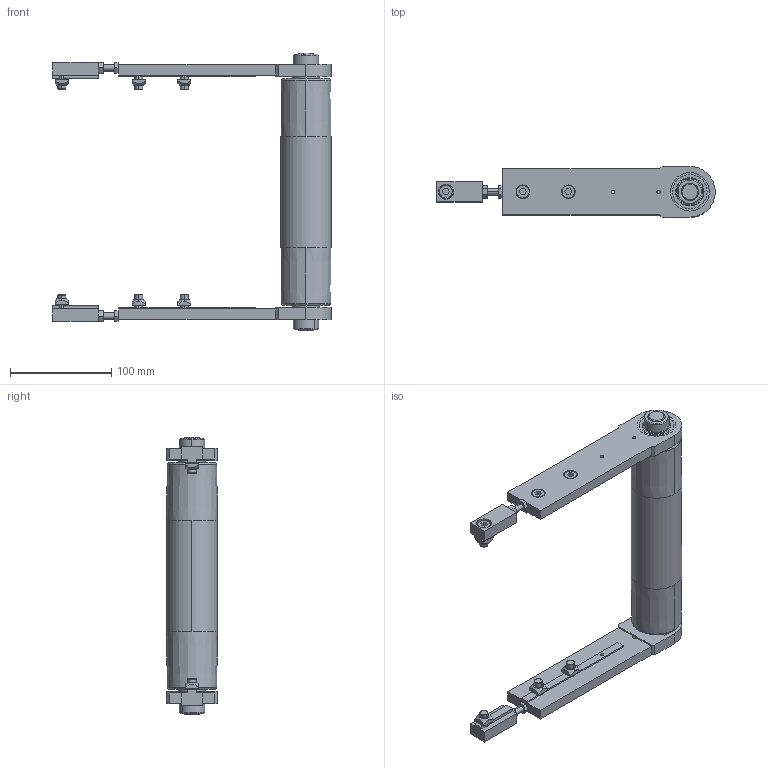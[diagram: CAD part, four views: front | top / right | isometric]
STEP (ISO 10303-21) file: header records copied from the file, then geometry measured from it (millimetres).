
FILE_DESCRIPTION (( 'STEP AP203' ), '1' );
FILE_NAME ('084.050.KIS.200.step', '2014-02-18T11:35:39', ( '' ), ( '' ), 'SwSTEP 2.0', 'SolidWorks 2012', '' );
FILE_SCHEMA (( 'CONFIG_CONTROL_DESIGN' ));
Length unit declared in the file: millimetre
Products named in the file (9): 084.050.KIS.200; 084.302.000 DADI ALUSIC 13x13_084.302.004; 084.301.000 VITI ALUSIC_084.301.003; 084.802.008; 084.810.001; 084.815.103_Default<A macchina>; 084.811.004; 084.802.017_084.802.017; 084.807.002_084.807.002
Assembly tree (23 placements, depth 2):
  084.050.KIS.200
    084.807.002_084.807.002  x2
    084.802.017_084.802.017  x2
    084.811.004  x2
    084.815.103_Default<A macchina>
    084.810.001  x2
    084.802.008  x2
    084.301.000 VITI ALUSIC_084.301.003  x6
    084.302.000 DADI ALUSIC 13x13_084.302.004  x6
Bounding box: 275 x 50 x 274 mm (x, y, z)
Volume: 426871.5 mm3; surface area: 219857.6 mm2
Topology: 29 solids, 31 shells, 668 faces, 1646 edges, 1068 vertices
Faces by surface type: plane 314, cylinder 218, torus 76, cone 52, sphere 8
Entity records: 11288 total; most frequent: CARTESIAN_POINT 1926, DIRECTION 1825, ORIENTED_EDGE 1586, EDGE_CURVE 793, AXIS2_PLACEMENT_3D 714, VERTEX_POINT 519, LINE 397, VECTOR 397
